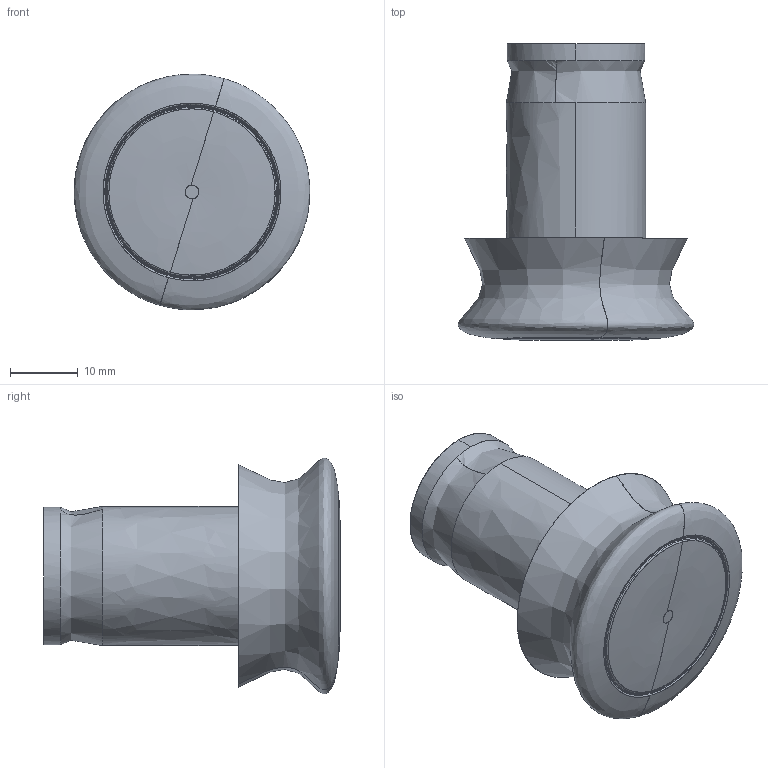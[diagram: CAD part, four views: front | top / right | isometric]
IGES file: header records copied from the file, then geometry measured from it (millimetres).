
Start section: SolidWorks IGES file using analytic representation for surfaces
Global section: file name: C:\Users\pere\Documents\PROTOS\CAP_LIGHTER_NISSAN_MICRA\CAP_LIGHTER_NISSAN_MICRA.IGS; native system: SolidWorks 2016; preprocessor: SolidWorks 2016; author: pere; date: 160914.131624; units: millimetre
Bounding box: 34.81 x 43.78 x 34.75 mm (x, y, z)
Surface area: 8188.1 mm2 (no closed solid volume)
Topology: 0 solids, 0 shells, 46 faces, 886 edges, 886 vertices
Faces by surface type: bspline 34, revolution 12
